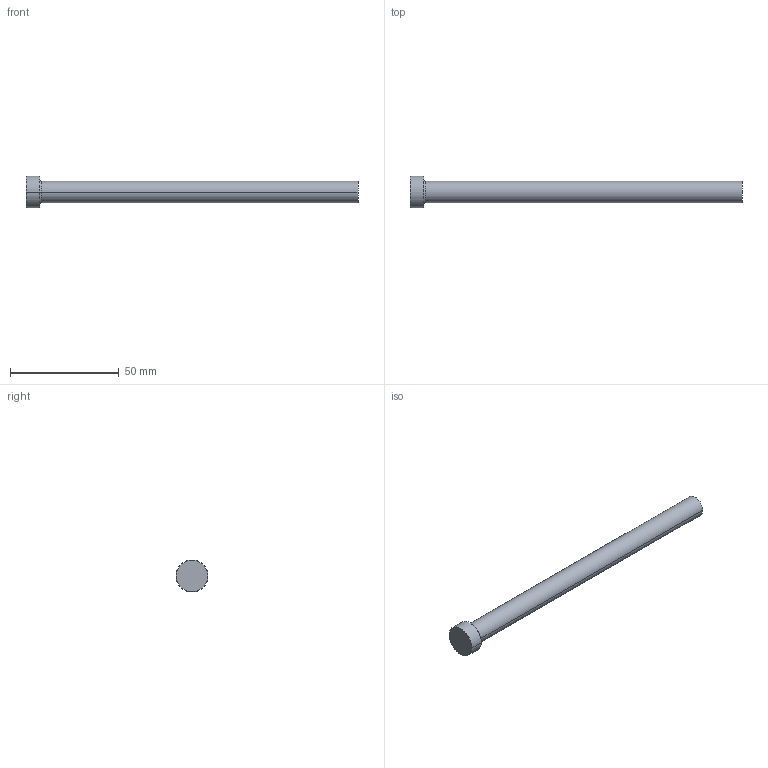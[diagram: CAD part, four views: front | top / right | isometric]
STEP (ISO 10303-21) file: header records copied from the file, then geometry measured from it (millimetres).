
FILE_DESCRIPTION (( 'STEP AP214' ), '1' );
FILE_NAME ('P26-6.STEP', '2020-03-12T10:02:15', ( '' ), ( '' ), 'SwSTEP 2.0', 'SolidWorks 2018', '' );
FILE_SCHEMA (( 'AUTOMOTIVE_DESIGN' ));
Length unit declared in the file: inch
Products named in the file (1): P26-6
Bounding box: 152.4 x 14.68 x 14.68 mm (x, y, z)
Volume: 12353.8 mm3; surface area: 5165.2 mm2
Topology: 1 solids, 1 shells, 13 faces, 24 edges, 14 vertices
Faces by surface type: cone 4, cylinder 4, plane 3, torus 2
Entity records: 366 total; most frequent: DIRECTION 68, CARTESIAN_POINT 52, ORIENTED_EDGE 48, AXIS2_PLACEMENT_3D 30, EDGE_CURVE 24, CIRCLE 16, EDGE_LOOP 14, VERTEX_POINT 14
